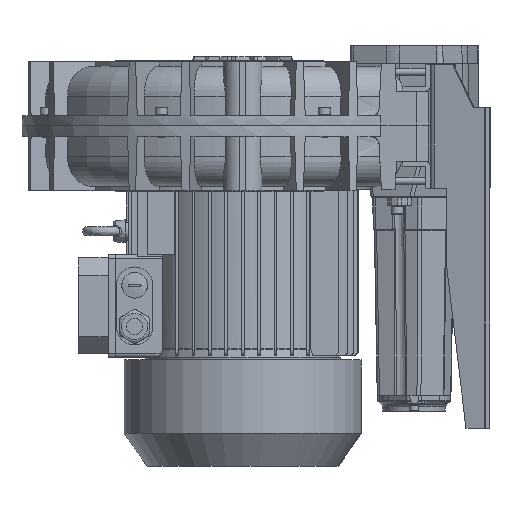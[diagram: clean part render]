
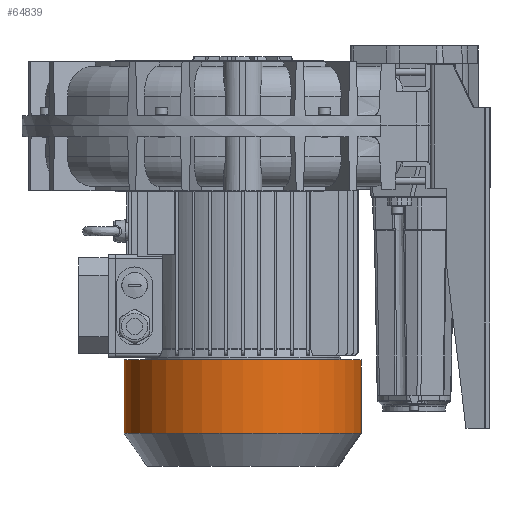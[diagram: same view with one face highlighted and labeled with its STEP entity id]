
A CAD part, left-side view. The second image highlights one B-rep face of the part: STEP entity #64839.
In plain terms, the highlighted cylindrical face has radius 129.5 mm (diameter 259 mm), a full revolution.
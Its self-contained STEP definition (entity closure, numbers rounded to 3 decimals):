
#3988 = CIRCLE ( 'NONE', #70886, 129.5 ) ;
#4855 = CARTESIAN_POINT ( 'NONE',  ( 0., 0., -185.796 ) ) ;
#5803 = ORIENTED_EDGE ( 'NONE', *, *, #6545, .T. ) ;
#6545 = EDGE_CURVE ( 'NONE', #29123, #29123, #29457, .T. ) ;
#11553 = EDGE_LOOP ( 'NONE', ( #41586 ) ) ;
#12521 = FACE_OUTER_BOUND ( 'NONE', #64618, .T. ) ;
#13435 = CARTESIAN_POINT ( 'NONE',  ( 0., 0., -221.5 ) ) ;
#13897 = VERTEX_POINT ( 'NONE', #28792 ) ;
#15172 = CARTESIAN_POINT ( 'NONE',  ( 0., -129.5, -185.796 ) ) ;
#15414 = DIRECTION ( 'NONE',  ( 0., -1., 0. ) ) ;
#19964 = DIRECTION ( 'NONE',  ( 0., 0., -1. ) ) ;
#20425 = CYLINDRICAL_SURFACE ( 'NONE', #35630, 129.5 ) ;
#22397 = CARTESIAN_POINT ( 'NONE',  ( 0., 0., -105.5 ) ) ;
#28792 = CARTESIAN_POINT ( 'NONE',  ( 0., -129.5, -105.5 ) ) ;
#29123 = VERTEX_POINT ( 'NONE', #15172 ) ;
#29457 = CIRCLE ( 'NONE', #91929, 129.5 ) ;
#35630 = AXIS2_PLACEMENT_3D ( 'NONE', #13435, #19964, #48393 ) ;
#38660 = EDGE_CURVE ( 'NONE', #13897, #13897, #3988, .T. ) ;
#40253 = DIRECTION ( 'NONE',  ( 0., -1., 0. ) ) ;
#41586 = ORIENTED_EDGE ( 'NONE', *, *, #38660, .T. ) ;
#48393 = DIRECTION ( 'NONE',  ( 0., -1., 0. ) ) ;
#50827 = DIRECTION ( 'NONE',  ( 0., 0., -1. ) ) ;
#64618 = EDGE_LOOP ( 'NONE', ( #5803 ) ) ;
#64839 = ADVANCED_FACE ( 'NONE', ( #12521, #77206 ), #20425, .T. ) ;
#70886 = AXIS2_PLACEMENT_3D ( 'NONE', #22397, #50827, #15414 ) ;
#74220 = DIRECTION ( 'NONE',  ( 0., 0., 1. ) ) ;
#77206 = FACE_OUTER_BOUND ( 'NONE', #11553, .T. ) ;
#91929 = AXIS2_PLACEMENT_3D ( 'NONE', #4855, #74220, #40253 ) ;
